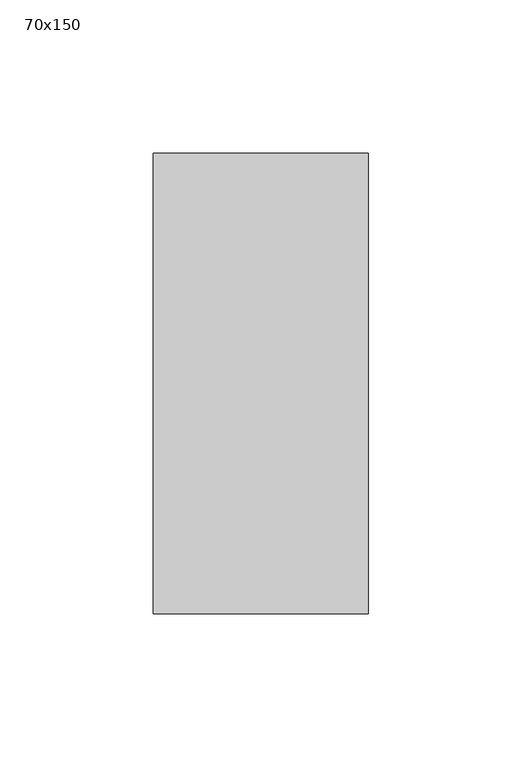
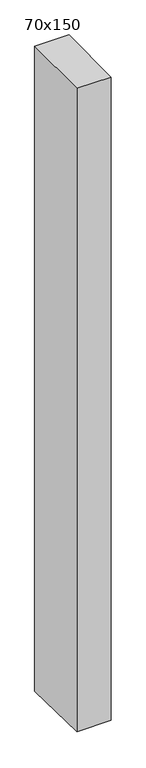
"""IFC4 building model written with IfcOpenShell, lengths in millimetres: member geometry, 長方形のマリオン : 70x150."""

from ifc_helpers import new_model, si_unit, frame, origin, place, context, project, spatial, polyline, outline, extrude, source, transform, mapped, element, save


def member_70x150_c7beafc3(model_context):
    return source(origin(), model_context, "Body", "SweptSolid", [
        extrude(outline(polyline([(-75.0, -0.1992642), (75.0, 0.1992642), (75.0, -1396.820836), (-75.0, -1394.0424355), (-75.0, -0.1992642)])), frame((-35.0, 0.0, 0.0), z_axis=(1.0, 0.0, 0.0), x_axis=(0.0, 1.0, 0.0)), (0.0, 0.0, 1.0), 70.0),
    ])


if __name__ == "__main__":
    model = new_model("IFC4")
    model_context = context("Model", 3, world=origin())
    ifc_project = project(units=[si_unit("LENGTHUNIT", "METRE", prefix="MILLI")], contexts=[model_context])
    site = spatial("IfcSite", under=ifc_project)
    building = spatial("IfcBuilding", under=site)
    placement = place(None, origin())
    member_70x150_shape = member_70x150_c7beafc3(model_context)
    element("IfcMember", 1, ObjectType="長方形のマリオン : 70x150", at=placement, inside=building, context=model_context, shape_type="MappedRepresentation", body=[
        mapped(member_70x150_shape, transform((0.0, 0.0, 0.0), x_axis=(1.0, 0.0, 0.0), y_axis=(0.0, 1.0, 0.0), z_axis=(0.0, 0.0, 1.0))),
    ])
    save(model, "model.ifc")
